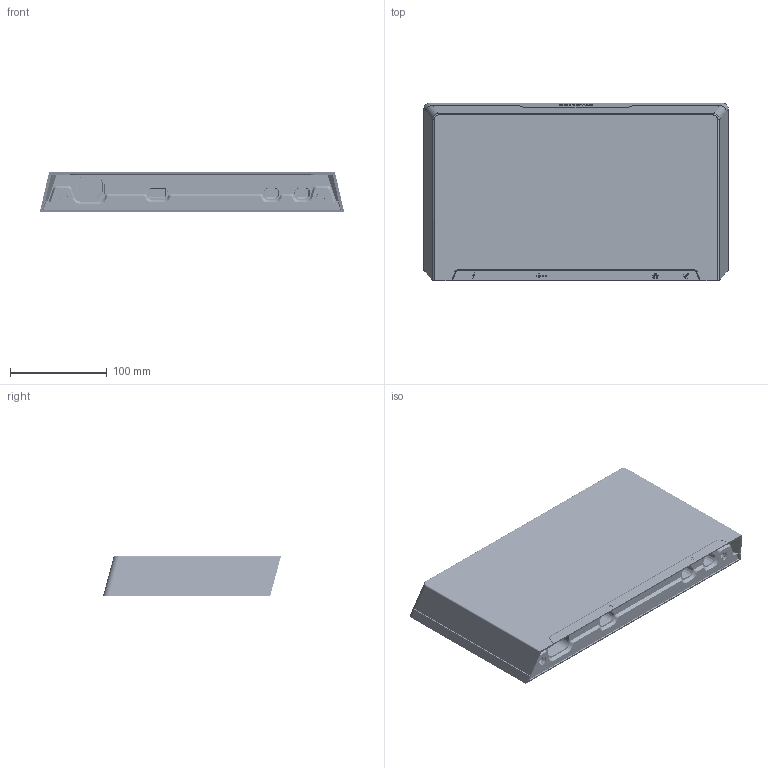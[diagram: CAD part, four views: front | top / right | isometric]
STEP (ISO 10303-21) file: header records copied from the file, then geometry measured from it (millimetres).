
FILE_DESCRIPTION(/* description */ (''),/* implementation_level */ '2;1');
FILE_NAME(/* name */ 'Starlink Performance UPSU.stp',/* time_stamp */ '2025-04-25T22:22:19-07:00',/* author */ (''),/* organization */ (''),/* preprocessor_version */ 'ST-DEVELOPER v20',/* originating_system */ 'SIEMENS PLM Software NX2406.8300',/* authorisation */ '');
FILE_SCHEMA (('AUTOMOTIVE_DESIGN { 1 0 10303 214 3 1 1 1 }'));
Products named in the file (1): 658302_01
Bounding box: 314.46 x 183.94 x 42 mm (x, y, z)
Volume: 1994842.2 mm3; surface area: 275059.2 mm2
Topology: 2 solids, 2 shells, 8284 faces, 18838 edges, 10785 vertices
Faces by surface type: cylinder 3691, bspline 2316, plane 1698, torus 257, sphere 184, cone 130, extrusion 8
Entity records: 262037 total; most frequent: CARTESIAN_POINT 114001, ORIENTED_EDGE 37658, DIRECTION 22412, EDGE_CURVE 18829, AXIS2_PLACEMENT_3D 11193, VERTEX_POINT 10785, B_SPLINE_CURVE_WITH_KNOTS 9447, EDGE_LOOP 8534
